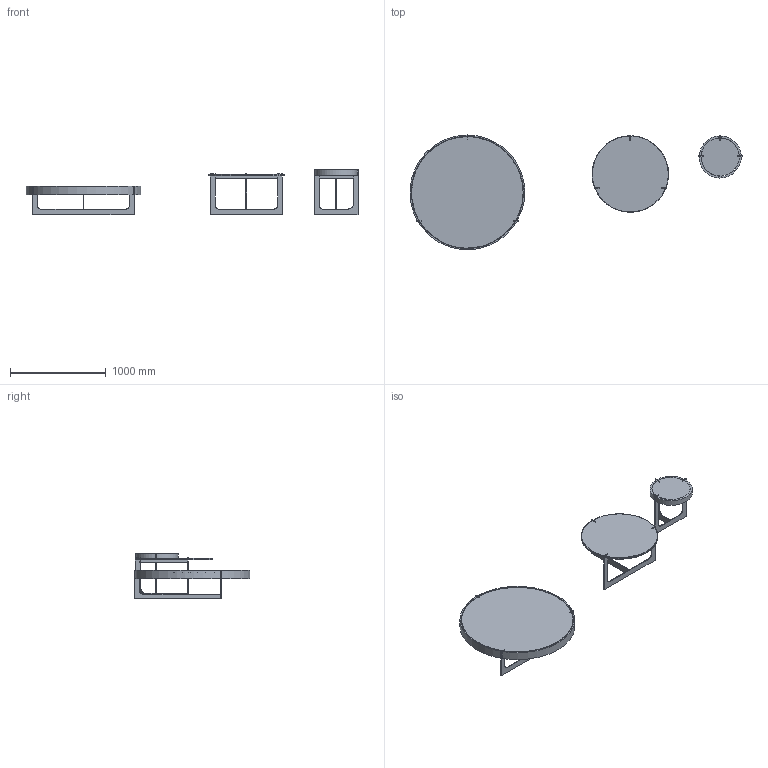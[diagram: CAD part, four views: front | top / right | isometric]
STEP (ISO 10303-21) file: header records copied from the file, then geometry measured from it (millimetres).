
FILE_DESCRIPTION(/* description */ (''),/* implementation_level */ '2;1');
FILE_NAME(/* name */ 'COFFEE ROSSI_3D_20231030',/* time_stamp */ '2023-10-30T17:44:03+01:00',/* author */ (''),/* organization */ (''),/* preprocessor_version */ 'ST-DEVELOPER v16.5',/* originating_system */ 'Rhino 7.23',/* authorisation */ '');
FILE_SCHEMA (('CONFIG_CONTROL_DESIGN'));
Length unit declared in the file: centimetre
Products named in the file (1): Document
Bounding box: 3471.18 x 1207.07 x 479.33 mm (x, y, z)
Volume: 106526665.1 mm3; surface area: 7508856.8 mm2
Topology: 11 solids, 11 shells, 197 faces, 513 edges, 332 vertices
Faces by surface type: plane 140, cylinder 40, bspline 17
Entity records: 5569 total; most frequent: CARTESIAN_POINT 2116, ORIENTED_EDGE 1026, EDGE_CURVE 513, B_SPLINE_CURVE_WITH_KNOTS 372, VERTEX_POINT 332, ADVANCED_FACE 197, FACE_OUTER_BOUND 197, EDGE_LOOP 197
